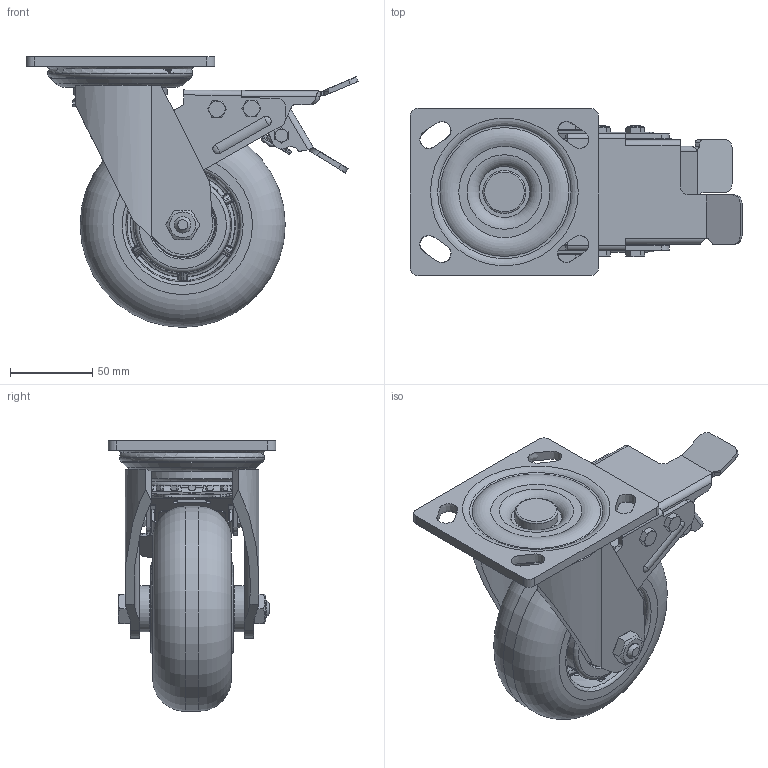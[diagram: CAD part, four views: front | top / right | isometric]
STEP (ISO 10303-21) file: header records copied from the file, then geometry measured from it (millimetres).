
FILE_DESCRIPTION(/* description */ (''),/* implementation_level */ '2;1');
FILE_NAME(/* name */ '35D05_5_F.stp',/* time_stamp */ '2022-10-17T13:54:18+08:00',/* author */ (''),/* organization */ (''),/* preprocessor_version */ 'ST-DEVELOPER v14',/* originating_system */ 'SIEMENS PLM Software NX 8.0',/* authorisation */ '');
FILE_SCHEMA (('AUTOMOTIVE_DESIGN { 1 0 10303 214 3 1 1 1 }'));
Length unit declared in the file: millimetre
Products named in the file (1): 35D05_5_F
Bounding box: 202.33 x 102 x 165 mm (x, y, z)
Surface area: 196772.5 mm2 (no closed solid volume)
Topology: 0 solids, 1 shells, 1473 faces, 3948 edges, 2506 vertices
Faces by surface type: plane 650, cylinder 421, bspline 205, cone 74, torus 66, sphere 29, extrusion 28
Full cylindrical faces by diameter (mm): 4 x2, 4.2 x2, 5 x2, 5.2 x2, 5.997 x19, 6 x2, 6.2 x9, 7.78 x1, 9.78 x2, 10.104 x2, 12 x1, 12.2 x2, 16.2 x1, 16.3 x1, 17 x2, 20.5 x2, 22.276 x1, 24.188 x4, 26.256 x1, 28 x2, 32.812 x2, 39.85 x2, 40 x3, 57 x1, 125 x1
Entity records: 64906 total; most frequent: CARTESIAN_POINT 31390, ORIENTED_EDGE 7216, DIRECTION 6529, EDGE_CURVE 3608, AXIS2_PLACEMENT_3D 2638, VERTEX_POINT 2349, EDGE_LOOP 1783, ADVANCED_FACE 1455
